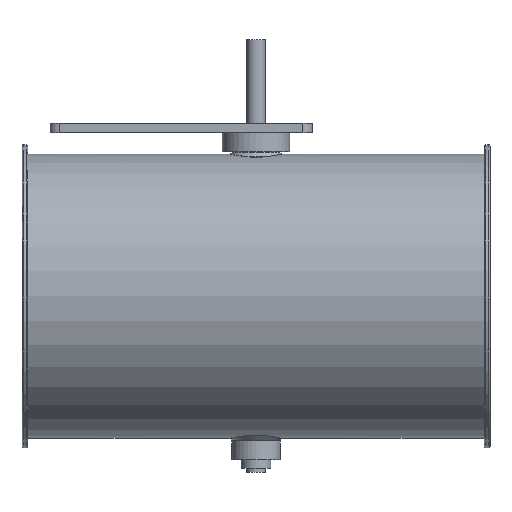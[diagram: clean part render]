
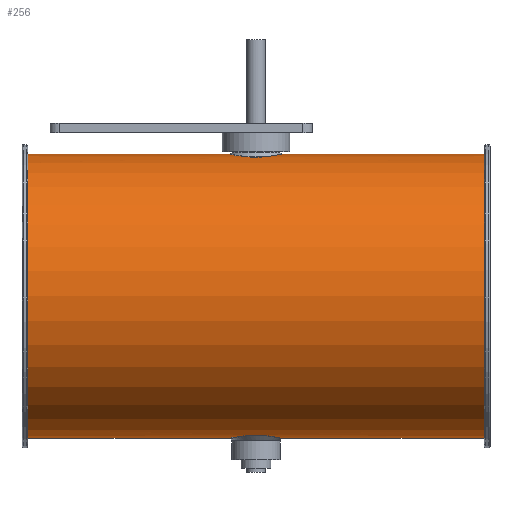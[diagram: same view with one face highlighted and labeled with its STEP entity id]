
A CAD part, top view. The second image highlights one B-rep face of the part: STEP entity #256.
In plain terms, the highlighted cylindrical face has radius 75.8 mm (diameter 151.6 mm), a full revolution.
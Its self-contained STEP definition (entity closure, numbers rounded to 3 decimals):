
#113=B_SPLINE_CURVE_WITH_KNOTS('',3,(#1638,#1639,#1640,#1641,#1642,#1643,
#1644,#1645,#1646,#1647,#1648,#1649,#1650,#1651,#1652,#1653,#1654,#1655,
#1656,#1657,#1658,#1659),.UNSPECIFIED.,.T.,.F.,(2,2,2,2,2,2,2,2,2,2,2,2,
2),(-0.062,0.,0.125,0.25,0.375,0.438,0.5,0.625,0.75,0.875,
0.938,1.,1.125),.UNSPECIFIED.);
#114=B_SPLINE_CURVE_WITH_KNOTS('',3,(#1661,#1662,#1663,#1664,#1665,#1666,
#1667,#1668,#1669,#1670,#1671,#1672,#1673,#1674,#1675,#1676,#1677,#1678,
#1679,#1680,#1681,#1682),.UNSPECIFIED.,.T.,.F.,(2,2,2,2,2,2,2,2,2,2,2,2,
2),(-0.125,0.,0.063,0.125,0.25,0.375,0.5,0.563,0.625,0.75,0.875,1.,1.063),
 .UNSPECIFIED.);
#214=CYLINDRICAL_SURFACE('',#1143,75.8);
#256=ADVANCED_FACE('',(#385,#386,#387,#388),#214,.T.);
#385=FACE_BOUND('',#525,.T.);
#386=FACE_BOUND('',#526,.T.);
#387=FACE_BOUND('',#527,.T.);
#388=FACE_BOUND('',#528,.T.);
#525=EDGE_LOOP('',(#691));
#526=EDGE_LOOP('',(#692));
#527=EDGE_LOOP('',(#693));
#528=EDGE_LOOP('',(#694));
#691=ORIENTED_EDGE('',*,*,#947,.T.);
#692=ORIENTED_EDGE('',*,*,#948,.T.);
#693=ORIENTED_EDGE('',*,*,#949,.T.);
#694=ORIENTED_EDGE('',*,*,#950,.F.);
#853=VERTEX_POINT('',#1637);
#854=VERTEX_POINT('',#1660);
#855=VERTEX_POINT('',#1683);
#856=VERTEX_POINT('',#1685);
#947=EDGE_CURVE('',#853,#853,#1041,.T.);
#948=EDGE_CURVE('',#854,#854,#113,.T.);
#949=EDGE_CURVE('',#855,#855,#114,.T.);
#950=EDGE_CURVE('',#856,#856,#1042,.T.);
#1041=CIRCLE('',#1141,75.8);
#1042=CIRCLE('',#1142,75.8);
#1141=AXIS2_PLACEMENT_3D('',#1636,#1352,#1353);
#1142=AXIS2_PLACEMENT_3D('',#1684,#1354,#1355);
#1143=AXIS2_PLACEMENT_3D('',#1686,#1356,#1357);
#1352=DIRECTION('',(1.,0.,0.));
#1353=DIRECTION('',(0.,0.,1.));
#1354=DIRECTION('',(1.,0.,0.));
#1355=DIRECTION('',(0.,0.,1.));
#1356=DIRECTION('',(1.,0.,0.));
#1357=DIRECTION('',(0.,0.,-1.));
#1636=CARTESIAN_POINT('',(-122.,-33.3,125.));
#1637=CARTESIAN_POINT('',(-122.,-33.3,200.8));
#1638=CARTESIAN_POINT('',(-1.915,-107.469,109.347));
#1639=CARTESIAN_POINT('',(-7.562,-107.826,111.109));
#1640=CARTESIAN_POINT('',(-10.621,-108.374,113.968));
#1641=CARTESIAN_POINT('',(-14.122,-109.069,120.892));
#1642=CARTESIAN_POINT('',(-14.603,-109.195,125.036));
#1643=CARTESIAN_POINT('',(-12.852,-108.813,132.605));
#1644=CARTESIAN_POINT('',(-10.608,-108.314,136.114));
#1645=CARTESIAN_POINT('',(-5.817,-107.729,139.396));
#1646=CARTESIAN_POINT('',(-3.978,-107.568,140.164));
#1647=CARTESIAN_POINT('',(-0.112,-107.436,140.797));
#1648=CARTESIAN_POINT('',(1.892,-107.468,140.655));
#1649=CARTESIAN_POINT('',(7.524,-107.822,138.912));
#1650=CARTESIAN_POINT('',(10.597,-108.369,136.071));
#1651=CARTESIAN_POINT('',(14.133,-109.071,129.094));
#1652=CARTESIAN_POINT('',(14.606,-109.195,124.972));
#1653=CARTESIAN_POINT('',(12.847,-108.811,117.377));
#1654=CARTESIAN_POINT('',(10.591,-108.311,113.868));
#1655=CARTESIAN_POINT('',(5.799,-107.727,110.595));
#1656=CARTESIAN_POINT('',(3.94,-107.566,109.826));
#1657=CARTESIAN_POINT('',(0.102,-107.437,109.205));
#1658=CARTESIAN_POINT('',(-1.915,-107.469,109.347));
#1659=CARTESIAN_POINT('',(-7.562,-107.826,111.109));
#1660=CARTESIAN_POINT('',(-3.798,-107.588,109.935));
#1661=CARTESIAN_POINT('',(-7.563,41.226,111.109));
#1662=CARTESIAN_POINT('',(-1.915,40.869,109.347));
#1663=CARTESIAN_POINT('',(0.083,40.837,109.204));
#1664=CARTESIAN_POINT('',(3.931,40.966,109.822));
#1665=CARTESIAN_POINT('',(5.783,41.125,110.584));
#1666=CARTESIAN_POINT('',(10.614,41.714,113.883));
#1667=CARTESIAN_POINT('',(12.856,42.213,117.393));
#1668=CARTESIAN_POINT('',(14.607,42.596,124.998));
#1669=CARTESIAN_POINT('',(14.117,42.467,129.126));
#1670=CARTESIAN_POINT('',(10.611,41.772,136.043));
#1671=CARTESIAN_POINT('',(7.552,41.226,138.889));
#1672=CARTESIAN_POINT('',(1.943,40.87,140.647));
#1673=CARTESIAN_POINT('',(-0.037,40.836,140.8));
#1674=CARTESIAN_POINT('',(-3.935,40.965,140.18));
#1675=CARTESIAN_POINT('',(-5.777,41.125,139.417));
#1676=CARTESIAN_POINT('',(-10.595,41.711,136.134));
#1677=CARTESIAN_POINT('',(-12.844,42.211,132.638));
#1678=CARTESIAN_POINT('',(-14.61,42.596,125.007));
#1679=CARTESIAN_POINT('',(-14.139,42.472,120.921));
#1680=CARTESIAN_POINT('',(-10.599,41.769,113.927));
#1681=CARTESIAN_POINT('',(-7.563,41.226,111.109));
#1682=CARTESIAN_POINT('',(-1.915,40.869,109.347));
#1683=CARTESIAN_POINT('',(-3.798,40.988,109.935));
#1684=CARTESIAN_POINT('',(122.,-33.3,125.));
#1685=CARTESIAN_POINT('',(122.,-33.3,200.8));
#1686=CARTESIAN_POINT('',(-125.,-33.3,125.));
